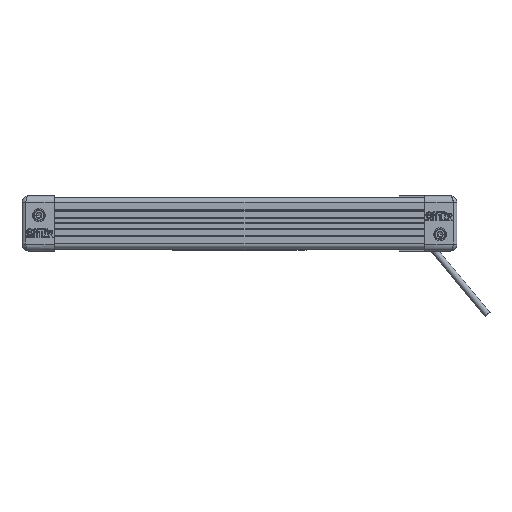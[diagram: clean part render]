
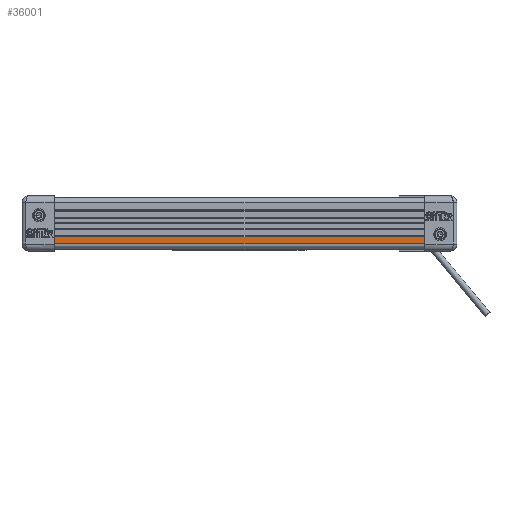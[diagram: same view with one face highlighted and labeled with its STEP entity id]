
A CAD part, left-side view. The second image highlights one B-rep face of the part: STEP entity #36001.
In plain terms, the highlighted planar face has unit normal (-1, 0, 0).
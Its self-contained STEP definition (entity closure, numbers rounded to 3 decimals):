
#1166 = VERTEX_POINT ( 'NONE', #3016 ) ;
#3016 = CARTESIAN_POINT ( 'NONE',  ( -9., -16., 299. ) ) ;
#4351 = DIRECTION ( 'NONE',  ( 0., -1., 0. ) ) ;
#4618 = CARTESIAN_POINT ( 'NONE',  ( -9., -16., 0. ) ) ;
#8752 = DIRECTION ( 'NONE',  ( 0., -1., 0. ) ) ;
#13522 = CARTESIAN_POINT ( 'NONE',  ( -9., -10.5, 299. ) ) ;
#14692 = ORIENTED_EDGE ( 'NONE', *, *, #57021, .F. ) ;
#15148 = CARTESIAN_POINT ( 'NONE',  ( -9., -10.5, 299. ) ) ;
#15633 = CARTESIAN_POINT ( 'NONE',  ( -9., -10.5, 299. ) ) ;
#17274 = VECTOR ( 'NONE', #54710, 1000. ) ;
#18305 = ORIENTED_EDGE ( 'NONE', *, *, #53447, .F. ) ;
#18984 = LINE ( 'NONE', #65904, #17274 ) ;
#21209 = DIRECTION ( 'NONE',  ( 0., 0., -1. ) ) ;
#24773 = EDGE_LOOP ( 'NONE', ( #59965, #14692, #18305, #51953 ) ) ;
#26783 = LINE ( 'NONE', #15633, #64885 ) ;
#33882 = VECTOR ( 'NONE', #4351, 1000. ) ;
#34527 = DIRECTION ( 'NONE',  ( 1., 0., 0. ) ) ;
#36001 = ADVANCED_FACE ( 'NONE', ( #57621 ), #52015, .F. ) ;
#40435 = VERTEX_POINT ( 'NONE', #4618 ) ;
#41942 = LINE ( 'NONE', #15148, #68266 ) ;
#42488 = CARTESIAN_POINT ( 'NONE',  ( -9., -10.5, 0. ) ) ;
#43343 = VERTEX_POINT ( 'NONE', #13522 ) ;
#44979 = AXIS2_PLACEMENT_3D ( 'NONE', #68435, #34527, #51282 ) ;
#45352 = VERTEX_POINT ( 'NONE', #42488 ) ;
#50541 = CARTESIAN_POINT ( 'NONE',  ( -9., -10.5, 0. ) ) ;
#51282 = DIRECTION ( 'NONE',  ( 0., 1., 0. ) ) ;
#51953 = ORIENTED_EDGE ( 'NONE', *, *, #72635, .T. ) ;
#52015 = PLANE ( 'NONE',  #44979 ) ;
#53447 = EDGE_CURVE ( 'NONE', #43343, #1166, #41942, .T. ) ;
#54710 = DIRECTION ( 'NONE',  ( 0., 0., -1. ) ) ;
#57021 = EDGE_CURVE ( 'NONE', #1166, #40435, #18984, .T. ) ;
#57621 = FACE_OUTER_BOUND ( 'NONE', #24773, .T. ) ;
#59965 = ORIENTED_EDGE ( 'NONE', *, *, #71292, .T. ) ;
#61776 = LINE ( 'NONE', #50541, #33882 ) ;
#64885 = VECTOR ( 'NONE', #21209, 1000. ) ;
#65904 = CARTESIAN_POINT ( 'NONE',  ( -9., -16., 299. ) ) ;
#68266 = VECTOR ( 'NONE', #8752, 1000. ) ;
#68435 = CARTESIAN_POINT ( 'NONE',  ( -9., -10.5, 299. ) ) ;
#71292 = EDGE_CURVE ( 'NONE', #45352, #40435, #61776, .T. ) ;
#72635 = EDGE_CURVE ( 'NONE', #43343, #45352, #26783, .T. ) ;
